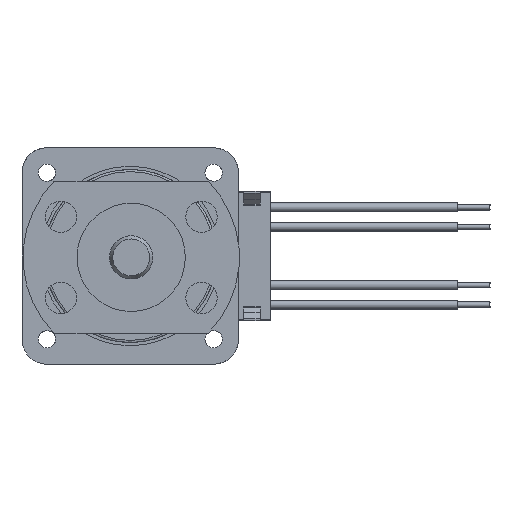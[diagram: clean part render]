
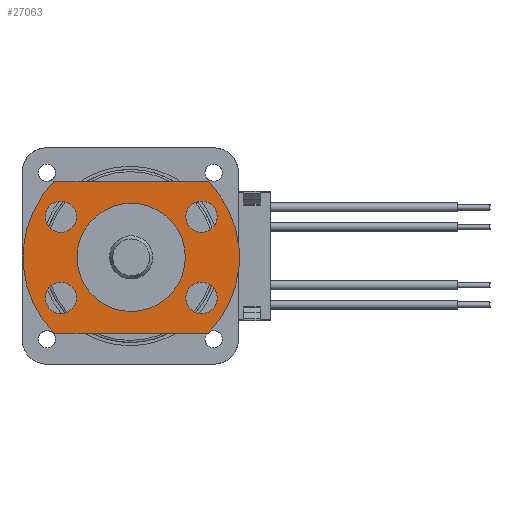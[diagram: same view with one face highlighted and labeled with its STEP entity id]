
A CAD part, left-side view. The second image highlights one B-rep face of the part: STEP entity #27063.
In plain terms, the highlighted planar face has unit normal (-1, 0, 0).
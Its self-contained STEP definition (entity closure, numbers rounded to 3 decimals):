
#26837=CARTESIAN_POINT('',(-14.9,7.05,6.875));
#26838=VERTEX_POINT('',#26837);
#26845=CARTESIAN_POINT('',(-14.9,-7.233,6.875));
#26846=VERTEX_POINT('',#26845);
#26847=CARTESIAN_POINT('',(-14.9,7.05,6.875));
#26848=DIRECTION('',(0.,-1.,0.));
#26849=VECTOR('',#26848,14.283);
#26850=LINE('',#26847,#26849);
#26851=EDGE_CURVE('',#26838,#26846,#26850,.T.);
#26869=CARTESIAN_POINT('',(-14.9,-7.233,-7.125));
#26870=VERTEX_POINT('',#26869);
#26871=CARTESIAN_POINT('',(-14.9,-0.091,-0.125));
#26872=DIRECTION('',(0.,-0.714,0.7));
#26873=DIRECTION('',(1.,0.,0.));
#26874=AXIS2_PLACEMENT_3D('',#26871,#26873,#26872);
#26875=CIRCLE('',#26874,10.);
#26876=EDGE_CURVE('',#26846,#26870,#26875,.T.);
#26894=CARTESIAN_POINT('',(-14.9,7.05,-7.125));
#26895=VERTEX_POINT('',#26894);
#26896=CARTESIAN_POINT('',(-14.9,-7.233,-7.125));
#26897=DIRECTION('',(0.,1.,0.));
#26898=VECTOR('',#26897,14.283);
#26899=LINE('',#26896,#26898);
#26900=EDGE_CURVE('',#26870,#26895,#26899,.T.);
#26918=CARTESIAN_POINT('',(-14.9,-0.091,-0.125));
#26919=DIRECTION('',(0.,0.714,-0.7));
#26920=DIRECTION('',(1.,0.,0.));
#26921=AXIS2_PLACEMENT_3D('',#26918,#26920,#26919);
#26922=CIRCLE('',#26921,10.);
#26923=EDGE_CURVE('',#26895,#26838,#26922,.T.);
#26935=CARTESIAN_POINT('',(-14.9,-6.586,5.075));
#26936=VERTEX_POINT('',#26935);
#26943=CARTESIAN_POINT('',(-14.9,-6.586,3.625));
#26944=DIRECTION('',(0.,0.,1.));
#26945=DIRECTION('',(-1.,0.,0.));
#26946=AXIS2_PLACEMENT_3D('',#26943,#26945,#26944);
#26947=CIRCLE('',#26946,1.45);
#26948=EDGE_CURVE('',#26936,#26936,#26947,.T.);
#26960=CARTESIAN_POINT('',(-14.9,-6.586,-2.425));
#26961=VERTEX_POINT('',#26960);
#26968=CARTESIAN_POINT('',(-14.9,-6.586,-3.875));
#26969=DIRECTION('',(-0.,0.,1.));
#26970=DIRECTION('',(-1.,0.,0.));
#26971=AXIS2_PLACEMENT_3D('',#26968,#26970,#26969);
#26972=CIRCLE('',#26971,1.45);
#26973=EDGE_CURVE('',#26961,#26961,#26972,.T.);
#26985=CARTESIAN_POINT('',(-14.9,6.404,5.075));
#26986=VERTEX_POINT('',#26985);
#26993=CARTESIAN_POINT('',(-14.9,6.404,3.625));
#26994=DIRECTION('',(0.,0.,1.));
#26995=DIRECTION('',(-1.,0.,0.));
#26996=AXIS2_PLACEMENT_3D('',#26993,#26995,#26994);
#26997=CIRCLE('',#26996,1.45);
#26998=EDGE_CURVE('',#26986,#26986,#26997,.T.);
#27010=CARTESIAN_POINT('',(-14.9,6.404,-2.425));
#27011=VERTEX_POINT('',#27010);
#27018=CARTESIAN_POINT('',(-14.9,6.404,-3.875));
#27019=DIRECTION('',(-0.,0.,1.));
#27020=DIRECTION('',(-1.,0.,0.));
#27021=AXIS2_PLACEMENT_3D('',#27018,#27020,#27019);
#27022=CIRCLE('',#27021,1.45);
#27023=EDGE_CURVE('',#27011,#27011,#27022,.T.);
#27029=CARTESIAN_POINT('',(-14.9,-0.091,6.877));
#27030=DIRECTION('',(0.,0.,1.));
#27031=DIRECTION('',(-1.,0.,0.));
#27032=AXIS2_PLACEMENT_3D('',#27029,#27031,#27030);
#27033=PLANE('',#27032);
#27034=ORIENTED_EDGE('',*,*,#26923,.F.);
#27035=ORIENTED_EDGE('',*,*,#26900,.F.);
#27036=ORIENTED_EDGE('',*,*,#26876,.F.);
#27037=ORIENTED_EDGE('',*,*,#26851,.F.);
#27038=EDGE_LOOP('',(#27034,#27035,#27036,#27037));
#27039=FACE_OUTER_BOUND('',#27038,.T.);
#27040=CARTESIAN_POINT('',(-14.9,-0.091,4.875));
#27041=VERTEX_POINT('',#27040);
#27042=CARTESIAN_POINT('',(-14.9,-0.091,-0.125));
#27043=DIRECTION('',(-0.,0.,1.));
#27044=DIRECTION('',(1.,0.,0.));
#27045=AXIS2_PLACEMENT_3D('',#27042,#27044,#27043);
#27046=CIRCLE('',#27045,5.);
#27047=EDGE_CURVE('',#27041,#27041,#27046,.T.);
#27048=ORIENTED_EDGE('E77',*,*,#27047,.T.);
#27049=EDGE_LOOP('',(#27048));
#27050=FACE_BOUND('',#27049,.T.);
#27051=ORIENTED_EDGE('',*,*,#27023,.F.);
#27052=EDGE_LOOP('',(#27051));
#27053=FACE_BOUND('',#27052,.T.);
#27054=ORIENTED_EDGE('',*,*,#26998,.F.);
#27055=EDGE_LOOP('',(#27054));
#27056=FACE_BOUND('',#27055,.T.);
#27057=ORIENTED_EDGE('',*,*,#26973,.F.);
#27058=EDGE_LOOP('',(#27057));
#27059=FACE_BOUND('',#27058,.T.);
#27060=ORIENTED_EDGE('',*,*,#26948,.F.);
#27061=EDGE_LOOP('',(#27060));
#27062=FACE_BOUND('',#27061,.T.);
#27063=ADVANCED_FACE('F35',(#27039,#27050,#27053,#27056,#27059,#27062),#27033,.T.);
